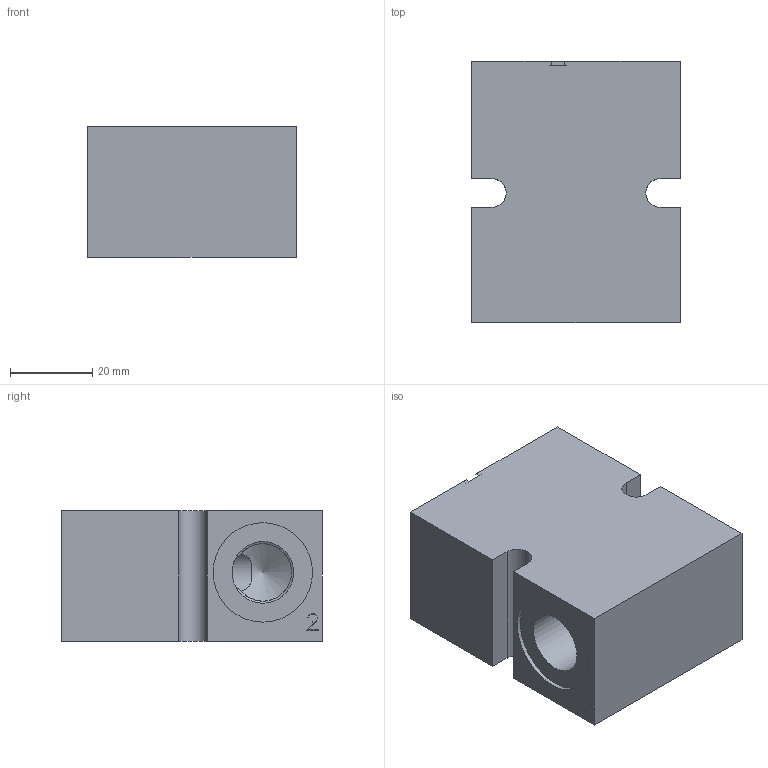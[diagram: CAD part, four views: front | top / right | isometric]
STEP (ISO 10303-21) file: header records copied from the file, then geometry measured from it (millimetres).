
FILE_DESCRIPTION( ( 'Unknown' ), '1' );
FILE_NAME( 'G:/Graphic Design/Graphic Design 2/Data Sheets/Delta Bodies/DRAWINGS/B-DPBB2L.stp', 'Unknown', ( 'Unknown' ), ( 'Unknown' ), 'PSStep 16.0.42', 'Unknown', ' ' );
FILE_SCHEMA( ( 'AUTOMOTIVE_DESIGN { 1 0 10303 214 1 1 1 1 }' ) );
Length unit declared in the file: millimetre
Products named in the file (2): Assem1; B-DPBB2L
Assembly tree (1 placements, depth 2):
  Assem1
    B-DPBB2L
Bounding box: 50.8 x 63.5 x 31.75 mm (x, y, z)
Surface area: 18069.1 mm2 (no closed solid volume)
Topology: 0 solids, 80 shells, 80 faces, 402 edges, 384 vertices
Faces by surface type: plane 57, cylinder 17, cone 6
Full cylindrical faces by diameter (mm): 0.2 x2, 10.5 x1, 11 x1, 12.7 x1, 15 x4, 17.33 x2, 24.2 x2
Entity records: 4594 total; most frequent: CARTESIAN_POINT 1327, DIRECTION 434, VERTEX_POINT 373, ORIENTED_EDGE 372, EDGE_CURVE 372, B_SPLINE_CURVE_WITH_KNOTS 164, LINE 146, VECTOR 146
